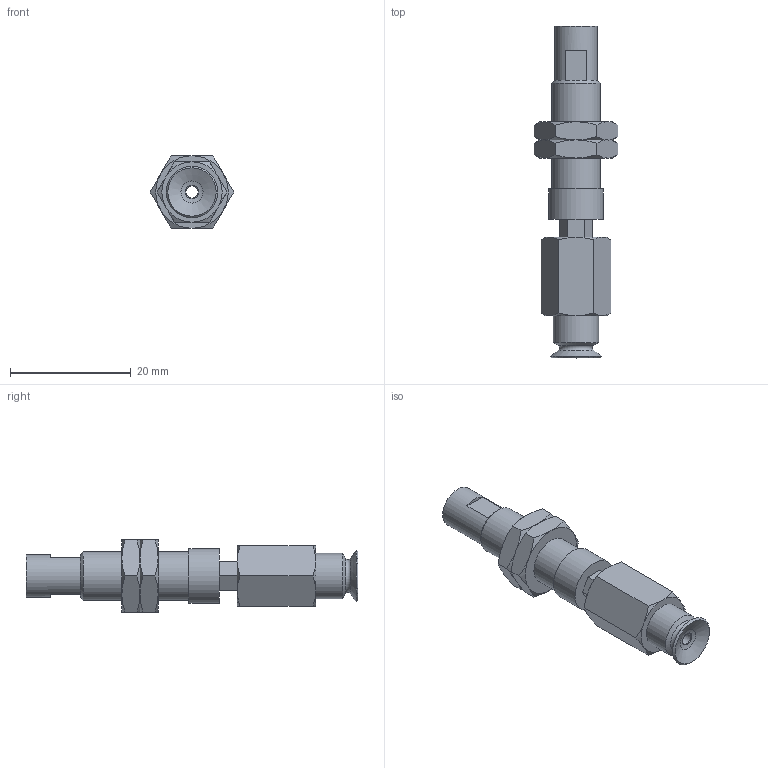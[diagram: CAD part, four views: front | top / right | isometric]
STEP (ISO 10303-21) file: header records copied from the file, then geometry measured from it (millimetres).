
FILE_DESCRIPTION(('STEP AP203'),'1');
FILE_NAME('.stp','2025-08-27T02:59:30',(' '),(' '),'Spatial InterOp 3D',' ',' ');
FILE_SCHEMA(('CONFIG_CONTROL_DESIGN'));
Length unit declared in the file: millimetre
Products named in the file (6): BNABPFTH-8A-3-※; ADAPTER; NAPATH-10A-3--M; Nut-8A-3-h; NAPFTH-8A-3-FBODY; BPFG-8A-※
Assembly tree (6 placements, depth 2):
  BNABPFTH-8A-3-※
    ADAPTER
    NAPATH-10A-3--M
    Nut-8A-3-h  x2
    NAPFTH-8A-3-FBODY
    BPFG-8A-※
Bounding box: 13.86 x 55 x 12 mm (x, y, z)
Volume: 3272.1 mm3; surface area: 3851.2 mm2
Topology: 6 solids, 6 shells, 123 faces, 266 edges, 161 vertices
Faces by surface type: plane 52, cone 46, cylinder 14, torus 10, bspline 1
Full cylindrical faces by diameter (mm): 2 x3, 4 x2, 4.134 x1, 6 x2, 7 x1, 7.188 x2, 7.5 x1, 8 x1, 9 x1
Entity records: 3003 total; most frequent: CARTESIAN_POINT 724, DIRECTION 412, ORIENTED_EDGE 354, AXIS2_PLACEMENT_3D 177, EDGE_CURVE 177, EDGE_LOOP 148, VERTEX_POINT 125, FACE_OUTER_BOUND 124
